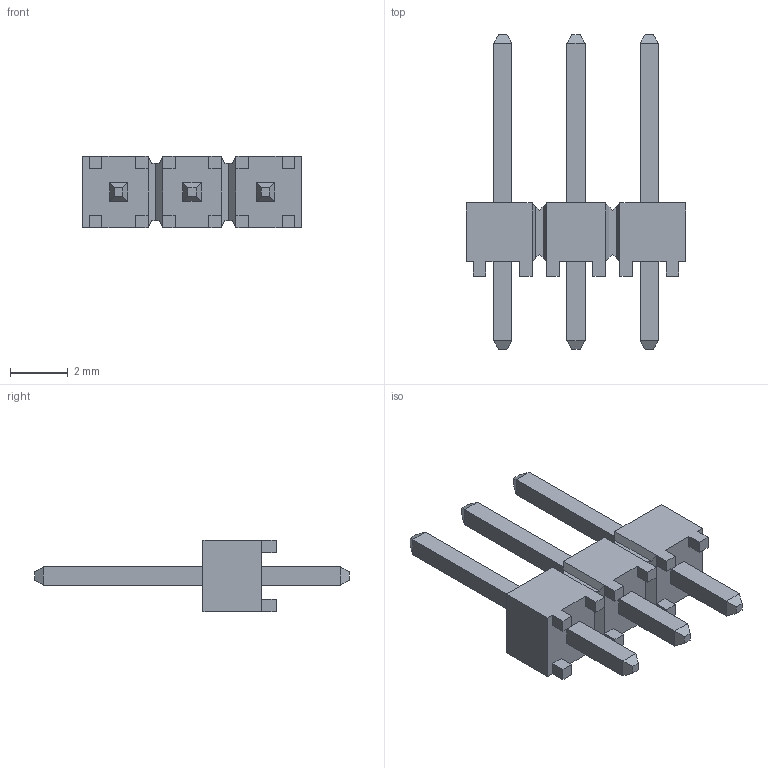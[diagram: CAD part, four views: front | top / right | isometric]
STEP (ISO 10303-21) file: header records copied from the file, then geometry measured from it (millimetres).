
FILE_DESCRIPTION( ( 'STEP AP214' ), '1' );
FILE_NAME( 'e:/temp/worker_907/temp/exporttempdir_7764_68_A4snZ/format_0/HTSW-103-07-T-S.stp', '2022-06-03T14:05:44', ( 'License CC BY-ND 4.0' ), ( 'CADENAS' ), ' ', 'PARTsolutions', ' ' );
FILE_SCHEMA( ( 'AUTOMOTIVE_DESIGN { 1 0 10303 214 1 1 1 1 }' ) );
Length unit declared in the file: inch
Products named in the file (3): HTSW-103-07-T-S; _HTSW-103-07-T-S_body; _T-1S6-07-HTSW-1--07-3-S
Assembly tree (2 placements, depth 2):
  HTSW-103-07-T-S
    _HTSW-103-07-T-S_body
    _T-1S6-07-HTSW-1--07-3-S
Bounding box: 7.62 x 10.92 x 2.49 mm (x, y, z)
Volume: 49.3 mm3; surface area: 196.8 mm2
Topology: 2 solids, 2 shells, 154 faces, 384 edges, 240 vertices
Faces by surface type: plane 154
Entity records: 5722 total; most frequent: CARTESIAN_POINT 781, ORIENTED_EDGE 768, DIRECTION 698, EDGE_CURVE 384, LINE 384, VECTOR 384, VERTEX_POINT 240, EDGE_LOOP 166
